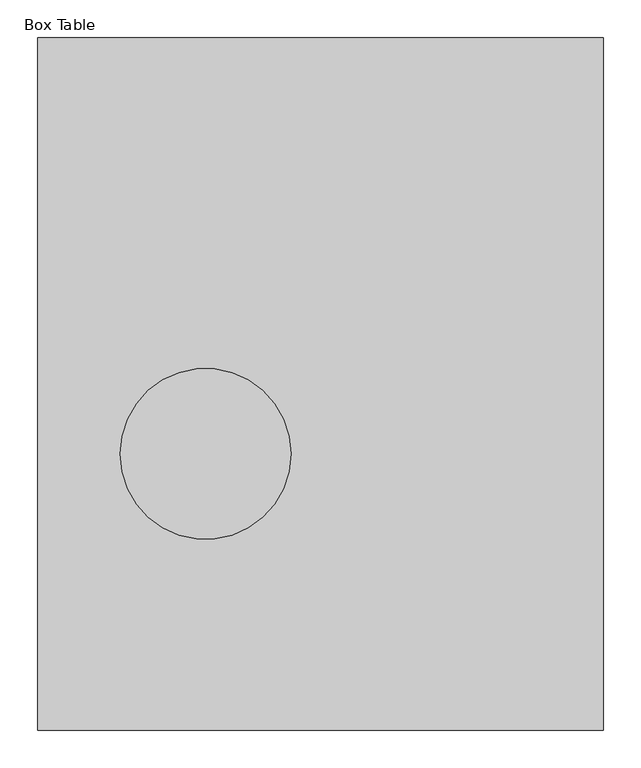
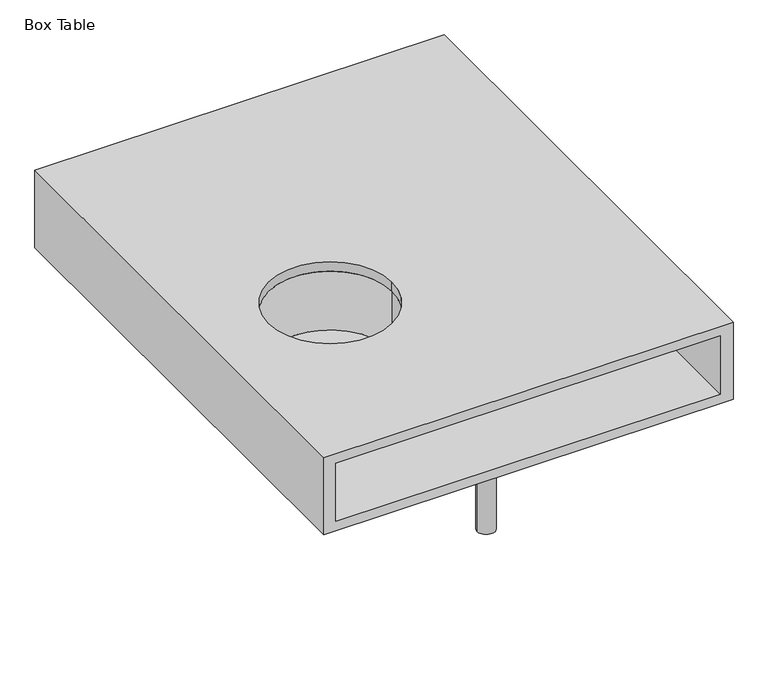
"""IFC4 building model written with IfcOpenShell, lengths in millimetres: furniture geometry, Coalesse_AM_Seating_LoungeChair_Sistema_LegBase_OneSeatConnector : Box Table."""

from ifc_helpers import new_model, si_unit, point, frame, frame_2d, origin, origin_with_axes, place, context, project, spatial, polyline, circle_curve, trimmed, segment, composite_curve, outline, extrude, source, transform, mapped, element, save
from ifc_brep_helpers import plane_surface, revolved_surface, advanced_brep


def box_table_a410ddd7(model_context):
    return source(origin(), model_context, "Body", "SolidModel", [
        extrude(outline(composite_curve([segment(trimmed(circle_curve(frame_2d((0.0, 335.9943389)), 6.096), [point((-6.096, 335.9943389))], [point((6.096, 335.9943389))], False, "CARTESIAN"), True, "CONTINUOUS"), segment(trimmed(circle_curve(frame_2d((0.0, 335.9943389)), 6.096), [point((6.096, 335.9943389))], [point((-6.096, 335.9943389))], False, "CARTESIAN"), True, "CONTINUOUS")], self_intersect=False)), origin_with_axes(), (0.0, 0.0, 1.0), 4.3662291),
        extrude(outline(composite_curve([segment(trimmed(circle_curve(frame_2d((0.0, -327.2630889)), 6.096), [point((-6.096, -327.2630889))], [point((6.096, -327.2630889))], False, "CARTESIAN"), True, "CONTINUOUS"), segment(trimmed(circle_curve(frame_2d((0.0, -327.2630889)), 6.096), [point((6.096, -327.2630889))], [point((-6.096, -327.2630889))], False, "CARTESIAN"), True, "CONTINUOUS")], self_intersect=False)), origin_with_axes(), (0.0, 0.0, 1.0), 4.3662291),
        extrude(outline(composite_curve([segment(trimmed(circle_curve(frame_2d((157.0399209, -9.5318523)), 3.048), [point((157.0399209, -12.5798523))], [point((153.9919209, -9.5318523))], False, "CARTESIAN"), True, "CONTINUOUS"), segment(polyline([(153.9919209, -9.5318523), (153.9919209, 9.7252509)]), True, "CONTINUOUS"), segment(trimmed(circle_curve(frame_2d((157.1249936, 9.7252509)), 3.1330728), [point((153.9919209, 9.7252509))], [point((157.1249936, 12.8583237))], False, "CARTESIAN"), True, "CONTINUOUS"), segment(polyline([(157.1249936, 12.8583237), (201.7356243, 12.8583237)]), True, "CONTINUOUS"), segment(trimmed(circle_curve(frame_2d((201.7356243, 9.8103237)), 3.048), [point((201.7356243, 12.8583237))], [point((204.7836243, 9.8103237))], False, "CARTESIAN"), True, "CONTINUOUS"), segment(polyline([(204.7836243, 9.8103237), (204.7836243, -9.5318523)]), True, "CONTINUOUS"), segment(trimmed(circle_curve(frame_2d((201.7356243, -9.5318523)), 3.048), [point((204.7836243, -9.5318523))], [point((201.7356243, -12.5798523))], False, "CARTESIAN"), True, "CONTINUOUS"), segment(polyline([(201.7356243, -12.5798523), (157.0399209, -12.5798523)]), True, "CONTINUOUS")], self_intersect=False)), frame((0.0, 222.3519802, 0.0), z_axis=(0.0, 1.0, 0.0), x_axis=(0.0, 0.0, 1.0)), (0.0, 0.0, 1.0), 92.6273161),
        extrude(outline(composite_curve([segment(trimmed(circle_curve(frame_2d((157.0399209, -9.5318523)), 3.048), [point((157.0399209, -12.5798523))], [point((153.9919209, -9.5318523))], False, "CARTESIAN"), True, "CONTINUOUS"), segment(polyline([(153.9919209, -9.5318523), (153.9919209, 9.7252509)]), True, "CONTINUOUS"), segment(trimmed(circle_curve(frame_2d((157.1249936, 9.7252509)), 3.1330728), [point((153.9919209, 9.7252509))], [point((157.1249936, 12.8583237))], False, "CARTESIAN"), True, "CONTINUOUS"), segment(polyline([(157.1249936, 12.8583237), (201.7356243, 12.8583237)]), True, "CONTINUOUS"), segment(trimmed(circle_curve(frame_2d((201.7356243, 9.8103237)), 3.048), [point((201.7356243, 12.8583237))], [point((204.7836243, 9.8103237))], False, "CARTESIAN"), True, "CONTINUOUS"), segment(polyline([(204.7836243, 9.8103237), (204.7836243, -9.5318523)]), True, "CONTINUOUS"), segment(trimmed(circle_curve(frame_2d((201.7356243, -9.5318523)), 3.048), [point((204.7836243, -9.5318523))], [point((201.7356243, -12.5798523))], False, "CARTESIAN"), True, "CONTINUOUS"), segment(polyline([(201.7356243, -12.5798523), (157.0399209, -12.5798523)]), True, "CONTINUOUS")], self_intersect=False)), frame((0.0, -314.9792963, 0.0), z_axis=(0.0, 1.0, 0.0), x_axis=(0.0, 0.0, 1.0)), (0.0, 0.0, 1.0), 92.6273161),
        extrude(outline(composite_curve([segment(polyline([(179.3836606, 22.6505283), (179.3836606, -22.0535686)]), True, "CONTINUOUS"), segment(trimmed(circle_curve(frame_2d((176.3356606, -22.0535686)), 3.048), [point((179.3836606, -22.0535686))], [point((176.3356606, -25.1015686))], False, "CARTESIAN"), True, "CONTINUOUS"), segment(polyline([(176.3356606, -25.1015686), (157.056462, -25.1015686)]), True, "CONTINUOUS"), segment(trimmed(circle_curve(frame_2d((157.056462, -22.0370274)), 3.0645412), [point((157.056462, -25.1015686))], [point((153.9919209, -22.0370274))], False, "CARTESIAN"), True, "CONTINUOUS"), segment(polyline([(153.9919209, -22.0370274), (153.9919209, 22.6505283)]), True, "CONTINUOUS"), segment(trimmed(circle_curve(frame_2d((157.0399209, 22.6505283)), 3.048), [point((153.9919209, 22.6505283))], [point((157.0399209, 25.6985283))], False, "CARTESIAN"), True, "CONTINUOUS"), segment(polyline([(157.0399209, 25.6985283), (176.3356606, 25.6985283)]), True, "CONTINUOUS"), segment(trimmed(circle_curve(frame_2d((176.3356606, 22.6505283)), 3.048), [point((176.3356606, 25.6985283))], [point((179.3836606, 22.6505283))], False, "CARTESIAN"), True, "CONTINUOUS")], self_intersect=False)), frame((0.0, -222.3519802, 0.0), z_axis=(0.0, 1.0, 0.0), x_axis=(0.0, 0.0, 1.0)), (0.0, 0.0, 1.0), 444.7039604),
        extrude(outline(composite_curve([segment(trimmed(circle_curve(frame_2d((0.0, 332.3095741)), 16.51), [point((-16.51, 332.3095741))], [point((16.51, 332.3095741))], False, "CARTESIAN"), True, "CONTINUOUS"), segment(trimmed(circle_curve(frame_2d((0.0, 332.3095741)), 16.51), [point((16.51, 332.3095741))], [point((-16.51, 332.3095741))], False, "CARTESIAN"), True, "CONTINUOUS")], self_intersect=False)), frame((0.0, 0.0, 4.3662291), z_axis=(0.0, 0.0, 1.0), x_axis=(1.0, 0.0, 0.0)), (0.0, 0.0, 1.0), 200.1037709),
        extrude(outline(composite_curve([segment(trimmed(circle_curve(frame_2d((0.396875, -327.5470741)), 16.51), [point((-16.113125, -327.5470741))], [point((16.906875, -327.5470741))], False, "CARTESIAN"), True, "CONTINUOUS"), segment(trimmed(circle_curve(frame_2d((0.396875, -327.5470741)), 16.51), [point((16.906875, -327.5470741))], [point((-16.113125, -327.5470741))], False, "CARTESIAN"), True, "CONTINUOUS")], self_intersect=False)), frame((0.0, 0.0, 4.3662291), z_axis=(0.0, 0.0, 1.0), x_axis=(1.0, 0.0, 0.0)), (0.0, 0.0, 1.0), 200.1037709),
        extrude(outline(composite_curve([segment(trimmed(circle_curve(frame_2d((-151.367273, -93.7879891)), 127.924967), [point((-279.29224, -93.7879891))], [point((-23.442306, -93.7879891))], False, "CARTESIAN"), True, "CONTINUOUS"), segment(trimmed(circle_curve(frame_2d((-151.367273, -93.7879891)), 127.924967), [point((-23.442306, -93.7879891))], [point((-279.29224, -93.7879891))], False, "CARTESIAN"), True, "CONTINUOUS")], self_intersect=False), holes=[composite_curve([segment(trimmed(circle_curve(frame_2d((-151.367273, -93.7879891)), 113.6810095), [point((-265.0482824, -93.7879891))], [point((-37.6862635, -93.7879891))], True, "CARTESIAN"), True, "CONTINUOUS"), segment(trimmed(circle_curve(frame_2d((-151.367273, -93.7879891)), 113.6810095), [point((-37.6862635, -93.7879891))], [point((-265.0482824, -93.7879891))], True, "CARTESIAN"), True, "CONTINUOUS")], self_intersect=False)]), frame((0.0, 0.0, 204.47), z_axis=(0.0, 0.0, 1.0), x_axis=(1.0, 0.0, 0.0)), (0.0, 0.0, 1.0), 132.0510652),
        advanced_brep(
        [(377.4828388, -461.2704381, 354.7774), (-374.8034773, -461.2704381, 354.7774), (-374.8034773, -461.2704381, 204.7903523), (377.4828388, -461.2704381, 204.7903523), (353.6069667, -461.2704381, 336.5211742), (353.6069667, -461.2704381, 223.173587), (-353.0071698, -461.2704381, 223.173587), (-353.0071698, -461.2704381, 336.5211742), (377.4828388, 459.4795619, 354.7774), (377.4828388, 459.4795619, 204.7903523), (-374.8034773, 459.4795619, 204.7903523), (-374.8034773, 459.4795619, 354.7774), (353.6069667, 459.4795619, 336.5211742), (-353.0071698, 459.4795619, 336.5211742), (-353.0071698, 459.4795619, 223.173587), (353.6069667, 459.4795619, 223.173587), (-37.6862635, -93.7879891, 354.7774), (-265.0482824, -93.7879891, 354.7774), (-37.6862635, -93.7879891, 223.173587), (-265.0482824, -93.7879891, 223.173587), (-265.0482824, -93.7879891, 336.5211742), (-37.6862635, -93.7879891, 336.5211742), (-265.0482824, -93.7879891, 222.4025564), (-37.6862635, -93.7879891, 222.4025564)],
        [
            (0, 1),
            (1, 2),
            (2, 3),
            (3, 0),
            (4, 5),
            (5, 6),
            (6, 7),
            (7, 4),
            (8, 9),
            (9, 10),
            (10, 11),
            (11, 8),
            (12, 13),
            (13, 14),
            (14, 15),
            (15, 12),
            (0, 8),
            (11, 1),
            (16, 17, circle_curve(frame((-151.367273, -93.7879891, 354.7774), z_axis=(0.0, 0.0, -1.0), x_axis=(1.0, 0.0, 0.0)), 113.6810095)),
            (17, 16, circle_curve(frame((-151.367273, -93.7879891, 354.7774), z_axis=(0.0, 0.0, -1.0), x_axis=(1.0, 0.0, 0.0)), 113.6810095)),
            (10, 2),
            (9, 3),
            (4, 12),
            (15, 5),
            (14, 6),
            (18, 19, circle_curve(frame((-151.367273, -93.7879891, 223.173587), z_axis=(0.0, 0.0, -1.0), x_axis=(1.0, 0.0, 0.0)), 113.6810095)),
            (19, 18, circle_curve(frame((-151.367273, -93.7879891, 223.173587), z_axis=(0.0, 0.0, -1.0), x_axis=(1.0, 0.0, 0.0)), 113.6810095)),
            (13, 7),
            (20, 21, circle_curve(frame((-151.367273, -93.7879891, 336.5211742), z_axis=(0.0, 0.0, 1.0), x_axis=(1.0, 0.0, 0.0)), 113.6810095)),
            (21, 20, circle_curve(frame((-151.367273, -93.7879891, 336.5211742), z_axis=(0.0, 0.0, 1.0), x_axis=(1.0, 0.0, 0.0)), 113.6810095)),
            (22, 23, circle_curve(frame((-151.367273, -93.7879891, 222.4025564), z_axis=(0.0, 0.0, 1.0), x_axis=(1.0, 0.0, 0.0)), 113.6810095)),
            (23, 22, circle_curve(frame((-151.367273, -93.7879891, 222.4025564), z_axis=(0.0, 0.0, 1.0), x_axis=(1.0, 0.0, 0.0)), 113.6810095)),
            (22, 19),
            (18, 23),
            (20, 17),
            (16, 21),
        ],
        [
            plane_surface(frame((-371.2653576, -461.2704381, 354.7774), z_axis=(0.0, -1.0, 0.0), x_axis=(-1.0, 0.0, 0.0))),
            plane_surface(frame((-371.2653576, 459.4795619, 354.7774), z_axis=(0.0, 1.0, 0.0), x_axis=(1.0, 0.0, 0.0))),
            plane_surface(frame((377.4828388, -461.2704381, 354.7774), z_axis=(0.0, 0.0, 1.0), x_axis=(0.0, 1.0, 0.0))),
            plane_surface(frame((-374.8034773, -461.2704381, 354.7774), z_axis=(-1.0, 0.0, 0.0), x_axis=(0.0, 1.0, 0.0))),
            plane_surface(frame((-374.8034773, -461.2704381, 204.7903523), z_axis=(0.0, 0.0, -1.0), x_axis=(0.0, 1.0, 0.0))),
            plane_surface(frame((377.4828388, -461.2704381, 204.7903523), z_axis=(1.0, 0.0, 0.0), x_axis=(0.0, 1.0, 0.0))),
            plane_surface(frame((353.6069667, -461.2704381, 336.5211742), z_axis=(-1.0, 0.0, 0.0), x_axis=(0.0, 1.0, 0.0))),
            plane_surface(frame((353.6069667, -461.2704381, 223.173587), z_axis=(0.0, 0.0, 1.0), x_axis=(0.0, 1.0, 0.0))),
            plane_surface(frame((-353.0071698, -461.2704381, 223.173587), z_axis=(1.0, 0.0, 0.0), x_axis=(0.0, 1.0, 0.0))),
            plane_surface(frame((-353.0071698, -461.2704381, 336.5211742), z_axis=(0.0, 0.0, -1.0), x_axis=(0.0, 1.0, 0.0))),
            plane_surface(frame((-37.6862635, -93.7879891, 222.4025564), z_axis=(0.0, 0.0, 1.0), x_axis=(0.0, -1.0, 0.0))),
            revolved_surface(polyline([(-37.68626350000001, -93.7879891, 223.173587), (-37.68626350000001, -93.7879891, 222.4025564)]), (-151.367273, -93.7879891, 222.4025564), (0.0, 0.0, 1.0)),
            revolved_surface(polyline([(-37.68626350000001, -93.7879891, 354.7774), (-37.68626350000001, -93.7879891, 336.5211742)]), (-151.367273, -93.7879891, 222.4025564), (0.0, 0.0, 1.0)),
        ],
        [
            (0, [[1, 2, 3, 4], [5, 6, 7, 8]]),
            (1, [[9, 10, 11, 12], [13, 14, 15, 16]]),
            (2, [[-1, 17, -12, 18], [19, 20]]),
            (3, [[-2, -18, -11, 21]]),
            (4, [[-3, -21, -10, 22]]),
            (5, [[-4, -22, -9, -17]]),
            (6, [[-5, 23, -16, 24]]),
            (7, [[-6, -24, -15, 25], [26, 27]]),
            (8, [[-7, -25, -14, 28]]),
            (9, [[-8, -28, -13, -23], [29, 30]]),
            (10, [[31, 32]]),
            (11, [[-31, 33, -26, 34]]),
            (12, [[35, -19, 36, -29]]),
            (11, [[-32, -34, -27, -33]]),
            (12, [[-35, -30, -36, -20]]),
        ],
    ),
    ])


if __name__ == "__main__":
    model = new_model("IFC4")
    model_context = context("Model", 3, world=origin())
    ifc_project = project(units=[si_unit("LENGTHUNIT", "METRE", prefix="MILLI")], contexts=[model_context])
    site = spatial("IfcSite", under=ifc_project)
    building = spatial("IfcBuilding", under=site)
    placement = place(None, origin())
    box_table_shape = box_table_a410ddd7(model_context)
    element("IfcFurniture", 1, ObjectType="Coalesse_AM_Seating_LoungeChair_Sistema_LegBase_OneSeatConnector : Box Table", at=placement, inside=building, context=model_context, shape_type="MappedRepresentation", body=[
        mapped(box_table_shape, transform((0.0, 0.0, 0.0), x_axis=(1.0, 0.0, 0.0), y_axis=(0.0, 1.0, 0.0), z_axis=(0.0, 0.0, 1.0))),
    ])
    save(model, "model.ifc")
